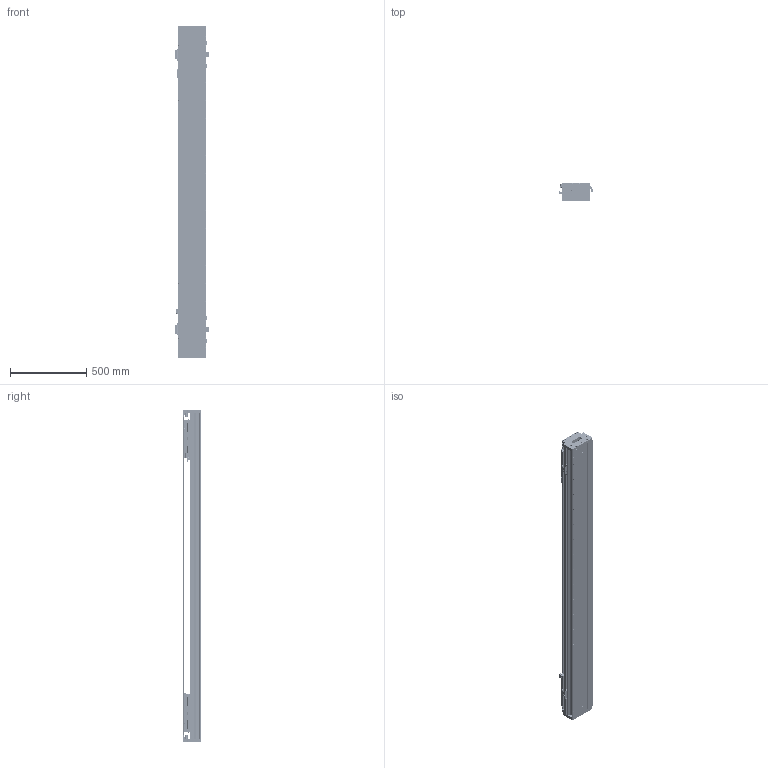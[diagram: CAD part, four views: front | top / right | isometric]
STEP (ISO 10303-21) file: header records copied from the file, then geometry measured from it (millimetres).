
FILE_DESCRIPTION (( 'STEP AP203' ), '1' );
FILE_NAME ('DKW188-2×C2-W090(T1520-L005-0.2).STEP', '2022-03-08T07:28:48', ( '微软用户' ), ( '微软中国' ), 'SwSTEP 2.0', 'SolidWorks 2018', '' );
FILE_SCHEMA (( 'CONFIG_CONTROL_DESIGN' ));
Length unit declared in the file: millimetre
Products named in the file (28): DKW168-RU-DTJ-00 RU2黍杅芛盓殤; 11899-0001-002-00 詩湍裔啣; CKMA01-W090-TRLxxx; RUS嫖掑喜; DKW188 单轴模组-拉钢带组件; 11500-0001-010-00 賑怢啣; Ru2; DKW188-2×C2-W090(T1520-L005-0.2); DKW168-HYB-00 賑輸揤啣; 11899-0001-003-00 傷啣; CKM02-W090-C1C2-TP-3.0 珨极萇儂; pm-y65; DKW168-HXJ-00 遣喳砎蝶; DKW168-HXJ-ZJ-00 笢潔滅袉砎蝶; 10980-0001-003-00 嫖萇羲壽嘐隅釱; 11899-0001-004-00 詩湍嶺輸; DKW-GYP-ZJ-00 笢潔嫖萇覜茼え; 嫖萇羲壽蚾饜极; 11899-0001-005-00 詩湍揤輸; 11899-0001-001-00 菁釱; DKW-KGZ-ZJ-00 中间光电开关支架; 嫖萇羲壽蚾饜极A; 11899-0001-006-00 嶺輸菜輸; SSR25-DG; EE_SX674A; DKW-SG-GYP-H-00 嫖萇覜茼え; 砎蝶猾沭; SSR25XW1UUC1
Assembly tree (55 placements, depth 3):
  DKW188-2×C2-W090(T1520-L005-0.2)
    11899-0001-001-00 菁釱
    SSR25-DG  x2
    SSR25XW1UUC1  x8
    CKMA01-W090-TRLxxx
    11500-0001-010-00 賑怢啣  x2
    DKW188 单轴模组-拉钢带组件
      11899-0001-003-00 傷啣  x2
      DKW168-HXJ-00 遣喳砎蝶  x4
      11899-0001-004-00 詩湍嶺輸  x2
      11899-0001-005-00 詩湍揤輸  x2
      11899-0001-006-00 嶺輸菜輸  x2
      砎蝶猾沭  x2
      11899-0001-002-00 詩湍裔啣
    DKW168-HYB-00 賑輸揤啣  x4
    嫖萇羲壽蚾饜极
      pm-y65  x2
      10980-0001-003-00 嫖萇羲壽嘐隅釱
    嫖萇羲壽蚾饜极A
      pm-y65  x2
      10980-0001-003-00 嫖萇羲壽嘐隅釱
    DKW-SG-GYP-H-00 嫖萇覜茼え  x2
    DKW168-RU-DTJ-00 RU2黍杅芛盓殤  x2
    RUS嫖掑喜
    Ru2  x2
    CKM02-W090-C1C2-TP-3.0 珨极萇儂  x2
    DKW168-HXJ-ZJ-00 笢潔滅袉砎蝶
    DKW-GYP-ZJ-00 笢潔嫖萇覜茼え
    DKW-KGZ-ZJ-00 中间光电开关支架
    EE_SX674A
Bounding box: 222.1 x 120 x 2176 mm (x, y, z)
Volume: 18927274.4 mm3; surface area: 4768812.5 mm2
Topology: 58 solids, 156 shells, 7088 faces, 18440 edges, 11699 vertices
Faces by surface type: plane 3626, cylinder 2160, cone 752, bspline 550
Entity records: 122311 total; most frequent: CARTESIAN_POINT 40663, ORIENTED_EDGE 16087, DIRECTION 15692, EDGE_CURVE 8084, AXIS2_PLACEMENT_3D 5360, VERTEX_POINT 5282, LINE 4972, VECTOR 4972
